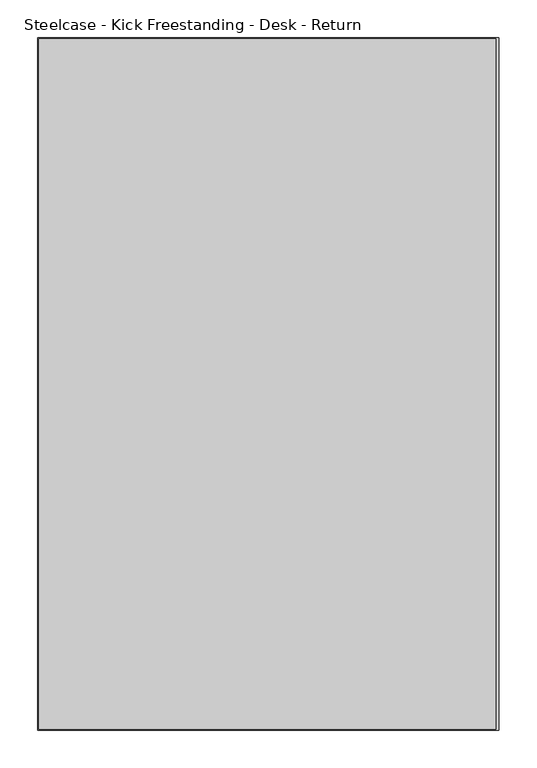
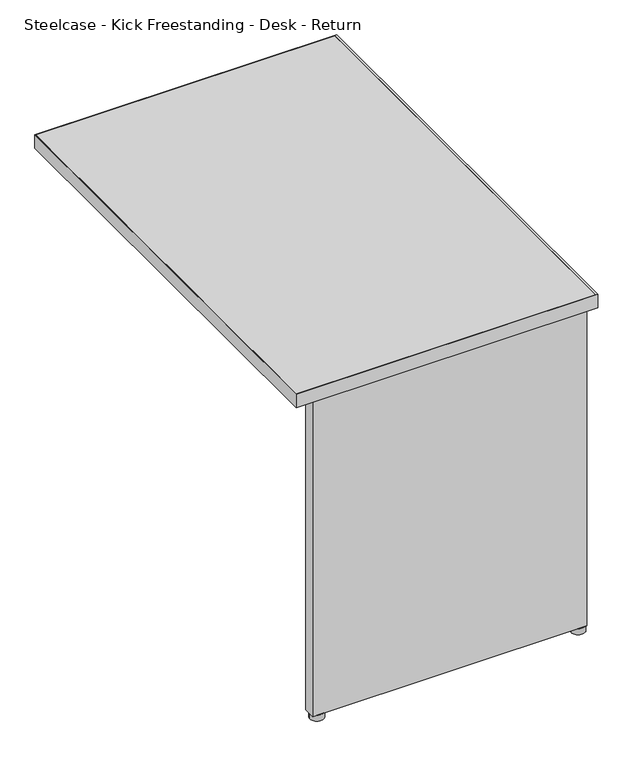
"""IFC4 building model written with IfcOpenShell, lengths in millimetres: furniture geometry, Steelcase - Kick Freestanding - Desk - Return : 24D x 36W - Left."""

from ifc_helpers import new_model, si_unit, point, frame, frame_2d, origin, origin_with_axes, place, context, project, spatial, polyline, circle_curve, trimmed, segment, composite_curve, outline, extrude, source, transform, mapped, element, save


def steelcase_kick_freestanding_desk_return_af1746cb(model_context):
    return source(origin(), model_context, "Body", "SweptSolid", [
        extrude(outline(composite_curve([segment(trimmed(circle_curve(frame_2d((2220.2474425, -1435.8145152)), 13.97), [point((2206.2774425, -1435.8145152))], [point((2234.2174425, -1435.8145152))], False, "CARTESIAN"), True, "CONTINUOUS"), segment(trimmed(circle_curve(frame_2d((2220.2474425, -1435.8145152)), 13.97), [point((2234.2174425, -1435.8145152))], [point((2206.2774425, -1435.8145152))], False, "CARTESIAN"), True, "CONTINUOUS")], self_intersect=False)), origin_with_axes(), (0.0, 0.0, 1.0), 12.7),
        extrude(outline(composite_curve([segment(trimmed(circle_curve(frame_2d((2748.0594425, -1435.8145152)), 13.97), [point((2734.0894425, -1435.8145152))], [point((2762.0294425, -1435.8145152))], False, "CARTESIAN"), True, "CONTINUOUS"), segment(trimmed(circle_curve(frame_2d((2748.0594425, -1435.8145152)), 13.97), [point((2762.0294425, -1435.8145152))], [point((2734.0894425, -1435.8145152))], False, "CARTESIAN"), True, "CONTINUOUS")], self_intersect=False)), origin_with_axes(), (0.0, 0.0, 1.0), 12.7),
        extrude(outline(polyline([(2205.0074425, -1423.2669152), (2328.2736437, -1423.2669152), (2328.2736437, -1445.6951136), (2427.9940467, -1445.6951136), (2427.9940467, -1423.2669041), (2536.7314502, -1423.2669041), (2536.7314502, -1445.6951136), (2636.4518532, -1445.6951136), (2636.4518532, -1423.2669041), (2759.4894376, -1423.2669041), (2759.4894376, -1447.7525098), (2205.0074425, -1447.7525098), (2205.0074425, -1423.2669152)])), frame((0.0, 0.0, 12.7), z_axis=(0.0, 0.0, 1.0), x_axis=(1.0, 0.0, 0.0)), (0.0, 0.0, 1.0), 682.244),
        extrude(outline(polyline([(2769.2176592, -548.0845152), (2769.2176592, -1459.9445152), (2164.8500425, -1459.9445152), (2164.8500425, -548.0845152), (2769.2176592, -548.0845152)])), frame((0.0, 0.0, 694.944), z_axis=(0.0, 0.0, 1.0), x_axis=(1.0, 0.0, 0.0)), (0.0, 0.0, 1.0), 28.956),
        extrude(outline(polyline([(2773.4594425, -546.8145152), (2773.4594425, -1461.2145152), (2163.8594425, -1461.2145152), (2163.8594425, -546.8145152), (2773.4594425, -546.8145152)]), holes=[polyline([(2769.2176592, -548.0845152), (2164.8500425, -548.0845152), (2164.8500425, -1459.9445152), (2769.2176592, -1459.9445152), (2769.2176592, -548.0845152)])]), frame((0.0, 0.0, 694.944), z_axis=(0.0, 0.0, 1.0), x_axis=(1.0, 0.0, 0.0)), (0.0, 0.0, 1.0), 28.956),
    ])


if __name__ == "__main__":
    model = new_model("IFC4")
    model_context = context("Model", 3, world=origin())
    ifc_project = project(units=[si_unit("LENGTHUNIT", "METRE", prefix="MILLI")], contexts=[model_context])
    site = spatial("IfcSite", under=ifc_project)
    building = spatial("IfcBuilding", under=site)
    placement = place(None, origin())
    steelcase_kick_freestanding_desk_return_shape = steelcase_kick_freestanding_desk_return_af1746cb(model_context)
    element("IfcFurniture", 1, ObjectType="Steelcase - Kick Freestanding - Desk - Return : 24D x 36W - Left", at=placement, inside=building, context=model_context, shape_type="MappedRepresentation", body=[
        mapped(steelcase_kick_freestanding_desk_return_shape, transform((0.0, 0.0, 0.0), x_axis=(1.0, 0.0, 0.0), y_axis=(0.0, 1.0, 0.0), z_axis=(0.0, 0.0, 1.0))),
    ])
    save(model, "model.ifc")
